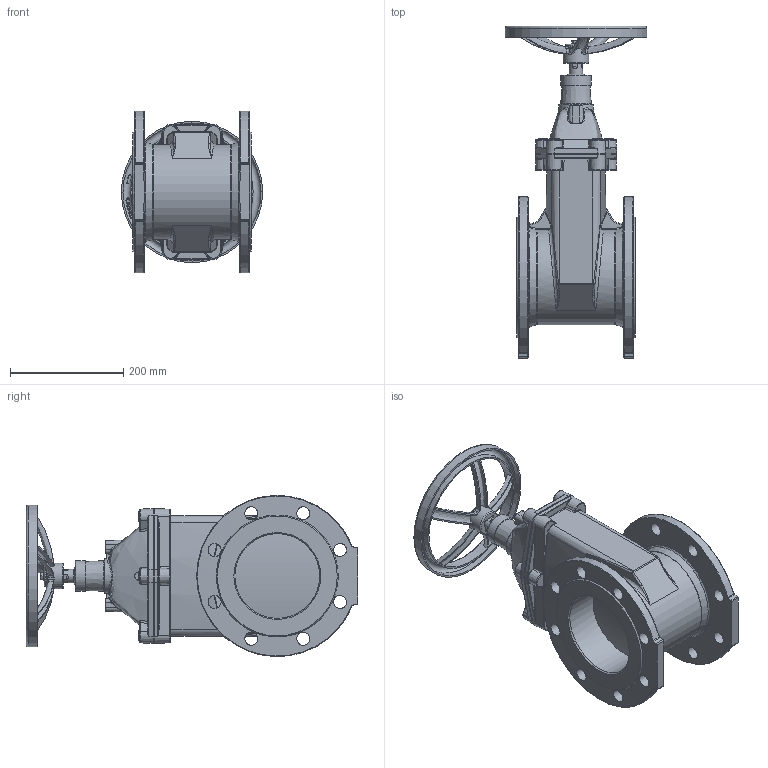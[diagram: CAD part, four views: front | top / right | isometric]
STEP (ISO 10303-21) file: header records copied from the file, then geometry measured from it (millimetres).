
FILE_DESCRIPTION (( 'STEP AP203' ), '1' );
FILE_NAME ('20.DN150.STEP', '2013-01-17T09:25:48', ( 'luca.saino' ), ( 'Hewlett-Packard Company' ), 'SwSTEP 2.0', 'SolidWorks 2012', '' );
FILE_SCHEMA (( 'CONFIG_CONTROL_DESIGN' ));
Length unit declared in the file: millimetre
Products named in the file (1): 20.DN150
Bounding box: 250 x 586.5 x 284.96 mm (x, y, z)
Volume: 8877222.8 mm3; surface area: 726575.6 mm2
Topology: 1 solids, 23 shells, 1597 faces, 3886 edges, 2288 vertices
Faces by surface type: cylinder 477, plane 415, bspline 367, torus 212, cone 92, sphere 34
Full cylindrical faces by diameter (mm): 6 x2, 6.8 x1, 8 x1, 8.4 x1, 8.5 x6, 10 x12, 10.2 x6, 11 x1, 13 x6, 16 x7, 20 x6, 22.5 x6, 23 x16, 23.5 x2, 36 x1, 45 x1, 54 x1, 150 x2, 210 x1, 216 x1, 244 x1, 250 x1
Entity records: 78029 total; most frequent: CARTESIAN_POINT 45308, ORIENTED_EDGE 7132, DIRECTION 6140, EDGE_CURVE 3566, AXIS2_PLACEMENT_3D 2470, VERTEX_POINT 2184, EDGE_LOOP 1832, FACE_OUTER_BOUND 1696
